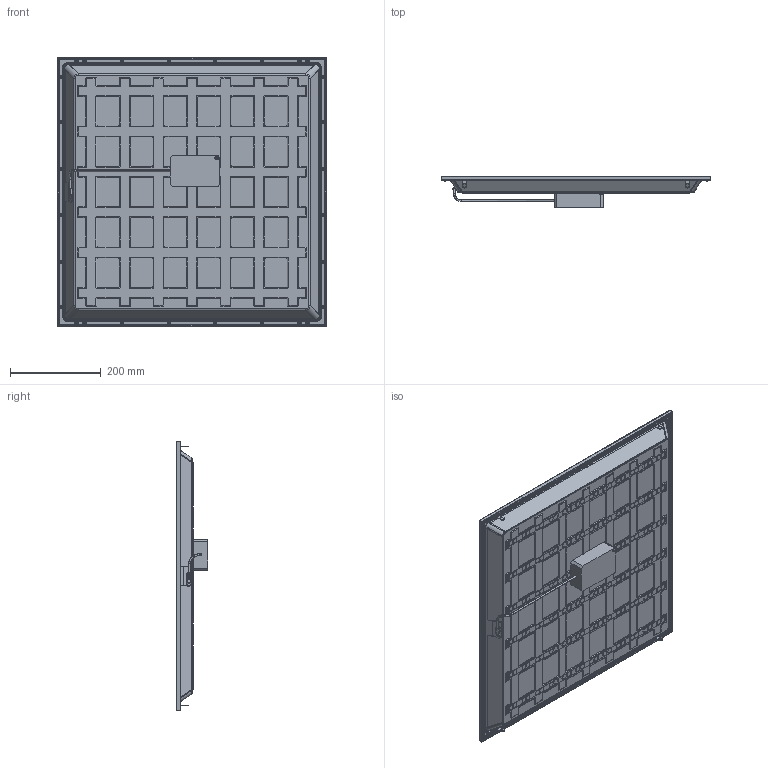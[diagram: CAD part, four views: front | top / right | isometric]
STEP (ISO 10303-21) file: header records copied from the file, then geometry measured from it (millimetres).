
FILE_DESCRIPTION(/* description */ (''),/* implementation_level */ '2;1');
FILE_NAME(/* name */ '929003433306_sh10_20240112.stp',/* time_stamp */ '2024-01-12T16:43:05+08:00',/* author */ (''),/* organization */ (''),/* preprocessor_version */ 'ST-DEVELOPER v19.4',/* originating_system */ 'SIEMENS PLM Software NX2212.8901',/* authorisation */ '');
FILE_SCHEMA (('AUTOMOTIVE_DESIGN { 1 0 10303 214 3 1 1 1 }'));
Products named in the file (1): 595595-Fluxtune_step_objects
Bounding box: 595 x 68.7 x 595 mm (x, y, z)
Volume: 1217823.3 mm3; surface area: 3065273.1 mm2
Topology: 49 solids, 49 shells, 4309 faces, 10956 edges, 7042 vertices
Faces by surface type: cylinder 2076, plane 1833, bspline 134, torus 118, cone 92, sphere 56
Entity records: 157815 total; most frequent: CARTESIAN_POINT 59130, ORIENTED_EDGE 21896, DIRECTION 19130, EDGE_CURVE 10948, VERTEX_POINT 7042, AXIS2_PLACEMENT_3D 6882, LINE 5366, VECTOR 5366
